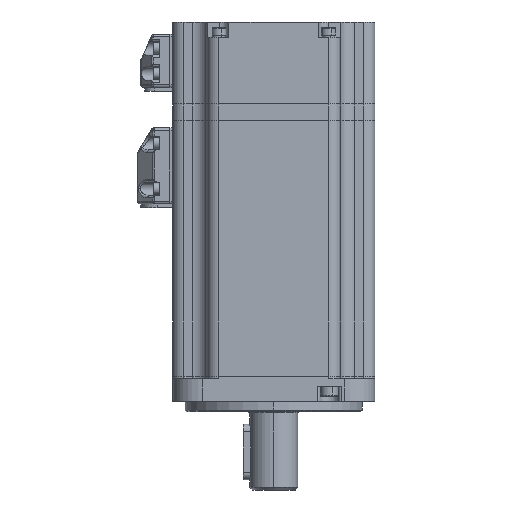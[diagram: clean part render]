
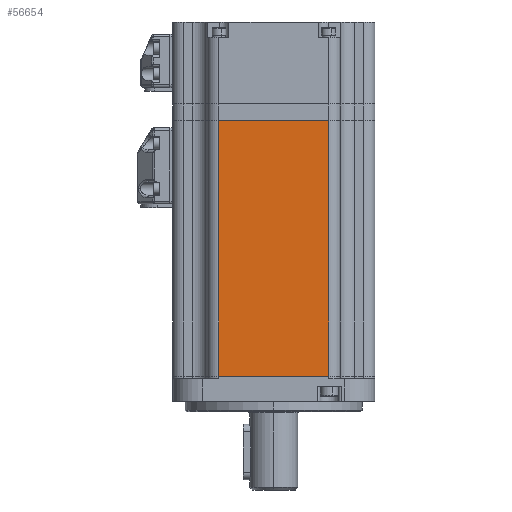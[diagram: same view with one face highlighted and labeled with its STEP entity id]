
A CAD part, left-side view. The second image highlights one B-rep face of the part: STEP entity #56654.
In plain terms, the highlighted planar face has unit normal (-1, 0, 0).
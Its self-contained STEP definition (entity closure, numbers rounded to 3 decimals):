
#59 = ORIENTED_EDGE ( 'NONE', *, *, #50894, .T. ) ;
#689 = DIRECTION ( 'NONE',  ( 0., 0., -1. ) ) ;
#4116 = ORIENTED_EDGE ( 'NONE', *, *, #57152, .F. ) ;
#4902 = EDGE_CURVE ( 'NONE', #24124, #48901, #29014, .T. ) ;
#6314 = CARTESIAN_POINT ( 'NONE',  ( -40., -21.75, 0. ) ) ;
#8170 = LINE ( 'NONE', #36873, #27575 ) ;
#10663 = AXIS2_PLACEMENT_3D ( 'NONE', #51473, #15050, #36220 ) ;
#13452 = FACE_OUTER_BOUND ( 'NONE', #56805, .T. ) ;
#14125 = CARTESIAN_POINT ( 'NONE',  ( -40., 21.75, 101.1 ) ) ;
#15050 = DIRECTION ( 'NONE',  ( 1., 0., 0. ) ) ;
#15246 = VECTOR ( 'NONE', #21923, 1000. ) ;
#15272 = PLANE ( 'NONE',  #10663 ) ;
#16070 = CARTESIAN_POINT ( 'NONE',  ( -40., 26.25, 0. ) ) ;
#21568 = EDGE_CURVE ( 'NONE', #48901, #40177, #8170, .T. ) ;
#21923 = DIRECTION ( 'NONE',  ( 0., -1., 0. ) ) ;
#22215 = DIRECTION ( 'NONE',  ( 0., 0., 1. ) ) ;
#23082 = VECTOR ( 'NONE', #60642, 1000. ) ;
#24124 = VERTEX_POINT ( 'NONE', #40738 ) ;
#24763 = ORIENTED_EDGE ( 'NONE', *, *, #21568, .T. ) ;
#27575 = VECTOR ( 'NONE', #22215, 1000. ) ;
#28057 = VECTOR ( 'NONE', #689, 1000. ) ;
#28755 = LINE ( 'NONE', #30326, #23082 ) ;
#29014 = LINE ( 'NONE', #16070, #15246 ) ;
#30326 = CARTESIAN_POINT ( 'NONE',  ( -40., 26.25, 101.1 ) ) ;
#31003 = CARTESIAN_POINT ( 'NONE',  ( -40., 21.75, 101.1 ) ) ;
#36220 = DIRECTION ( 'NONE',  ( 0., 1., 0. ) ) ;
#36873 = CARTESIAN_POINT ( 'NONE',  ( -40., -21.75, 101.1 ) ) ;
#40177 = VERTEX_POINT ( 'NONE', #41091 ) ;
#40738 = CARTESIAN_POINT ( 'NONE',  ( -40., 21.75, 0. ) ) ;
#41091 = CARTESIAN_POINT ( 'NONE',  ( -40., -21.75, 101.1 ) ) ;
#44078 = VERTEX_POINT ( 'NONE', #14125 ) ;
#48901 = VERTEX_POINT ( 'NONE', #6314 ) ;
#50041 = ORIENTED_EDGE ( 'NONE', *, *, #4902, .T. ) ;
#50894 = EDGE_CURVE ( 'NONE', #44078, #24124, #65076, .T. ) ;
#51473 = CARTESIAN_POINT ( 'NONE',  ( -40., 26.25, 101.1 ) ) ;
#56654 = ADVANCED_FACE ( 'NONE', ( #13452 ), #15272, .F. ) ;
#56805 = EDGE_LOOP ( 'NONE', ( #4116, #59, #50041, #24763 ) ) ;
#57152 = EDGE_CURVE ( 'NONE', #44078, #40177, #28755, .T. ) ;
#60642 = DIRECTION ( 'NONE',  ( 0., -1., 0. ) ) ;
#65076 = LINE ( 'NONE', #31003, #28057 ) ;
